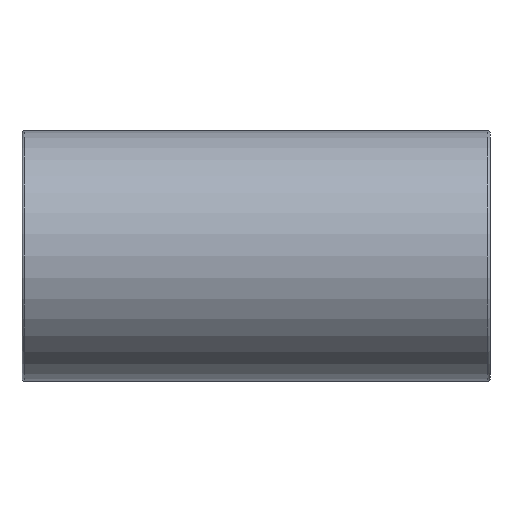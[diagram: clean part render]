
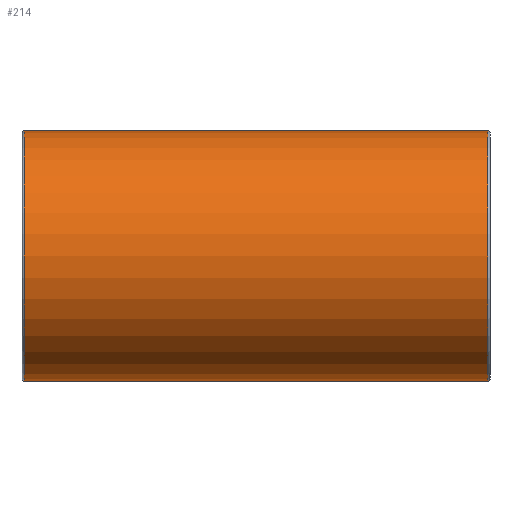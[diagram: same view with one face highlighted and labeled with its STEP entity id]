
A CAD part, front view. The second image highlights one B-rep face of the part: STEP entity #214.
In plain terms, the highlighted cylindrical face has radius 38.5 mm (diameter 77 mm), a full revolution.
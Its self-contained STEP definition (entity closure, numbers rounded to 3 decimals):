
#27=B_SPLINE_CURVE_WITH_KNOTS('',3,(#355,#356,#357,#358,#359,#360,#361,
#362,#363,#364,#365,#366,#367,#368,#369,#370,#371,#372,#373,#374,#375,#376,
#377,#378,#379,#380,#381,#382,#383,#384,#385,#386,#387,#388,#389,#390,#391,
#392,#393,#394,#395,#396,#397,#398,#399,#400,#401,#402,#403,#404,#405,#406,
#407,#408,#409,#410,#411,#412,#413,#414,#415,#416,#417,#418,#419,#420),
 .UNSPECIFIED.,.T.,.F.,(4,2,2,2,2,2,2,2,2,2,2,2,2,2,2,2,2,2,2,2,2,2,2,2,
2,2,2,2,2,2,2,2,4),(0.,0.396,0.792,1.188,
1.584,1.978,2.373,2.767,3.162,
3.557,3.951,4.346,4.74,5.136,
5.532,5.928,6.324,6.72,7.116,
7.512,7.908,8.302,8.697,9.091,
9.486,9.88,10.275,10.67,11.064,
11.46,11.856,12.252,12.648),
 .UNSPECIFIED.);
#29=FACE_BOUND('',#70,.T.);
#30=FACE_BOUND('',#71,.T.);
#50=FACE_OUTER_BOUND('',#69,.T.);
#69=EDGE_LOOP('',(#167));
#70=EDGE_LOOP('',(#168));
#71=EDGE_LOOP('',(#169));
#109=CIRCLE('',#236,38.5);
#110=CIRCLE('',#237,38.5);
#127=VERTEX_POINT('',#350);
#128=VERTEX_POINT('',#352);
#129=VERTEX_POINT('',#354);
#147=EDGE_CURVE('',#127,#127,#109,.T.);
#148=EDGE_CURVE('',#128,#128,#110,.T.);
#149=EDGE_CURVE('',#129,#129,#27,.T.);
#167=ORIENTED_EDGE('',*,*,#147,.F.);
#168=ORIENTED_EDGE('',*,*,#148,.F.);
#169=ORIENTED_EDGE('',*,*,#149,.F.);
#207=CYLINDRICAL_SURFACE('',#235,38.5);
#214=ADVANCED_FACE('',(#50,#29,#30),#207,.T.);
#235=AXIS2_PLACEMENT_3D('',#349,#274,#275);
#236=AXIS2_PLACEMENT_3D('',#351,#276,#277);
#237=AXIS2_PLACEMENT_3D('',#353,#278,#279);
#274=DIRECTION('center_axis',(1.,0.,0.));
#275=DIRECTION('ref_axis',(0.,1.,0.));
#276=DIRECTION('center_axis',(-1.,0.,0.));
#277=DIRECTION('ref_axis',(0.,-1.,0.));
#278=DIRECTION('center_axis',(1.,0.,0.));
#279=DIRECTION('ref_axis',(0.,-1.,0.));
#349=CARTESIAN_POINT('Origin',(0.,0.,
0.));
#350=CARTESIAN_POINT('',(-71.37,38.5,0.));
#351=CARTESIAN_POINT('Origin',(-71.37,0.,0.));
#352=CARTESIAN_POINT('',(71.37,38.5,0.));
#353=CARTESIAN_POINT('Origin',(71.37,0.,0.));
#354=CARTESIAN_POINT('',(0.,32.588,20.5));
#355=CARTESIAN_POINT('Ctrl Pts',(0.,32.588,20.5));
#356=CARTESIAN_POINT('Ctrl Pts',(1.32,32.588,20.5));
#357=CARTESIAN_POINT('Ctrl Pts',(2.673,32.671,20.371));
#358=CARTESIAN_POINT('Ctrl Pts',(5.345,32.997,19.838));
#359=CARTESIAN_POINT('Ctrl Pts',(6.663,33.24,19.435));
#360=CARTESIAN_POINT('Ctrl Pts',(9.177,33.834,18.382));
#361=CARTESIAN_POINT('Ctrl Pts',(10.375,34.184,17.731));
#362=CARTESIAN_POINT('Ctrl Pts',(12.586,34.919,16.237));
#363=CARTESIAN_POINT('Ctrl Pts',(13.599,35.302,15.393));
#364=CARTESIAN_POINT('Ctrl Pts',(15.389,36.03,13.602));
#365=CARTESIAN_POINT('Ctrl Pts',(16.233,36.401,12.591));
#366=CARTESIAN_POINT('Ctrl Pts',(17.729,37.093,10.379));
#367=CARTESIAN_POINT('Ctrl Pts',(18.381,37.412,9.179));
#368=CARTESIAN_POINT('Ctrl Pts',(19.436,37.941,6.66));
#369=CARTESIAN_POINT('Ctrl Pts',(19.839,38.152,5.339));
#370=CARTESIAN_POINT('Ctrl Pts',(20.371,38.431,2.667));
#371=CARTESIAN_POINT('Ctrl Pts',(20.5,38.5,1.315));
#372=CARTESIAN_POINT('Ctrl Pts',(20.5,38.5,-1.315));
#373=CARTESIAN_POINT('Ctrl Pts',(20.371,38.431,-2.667));
#374=CARTESIAN_POINT('Ctrl Pts',(19.839,38.152,-5.339));
#375=CARTESIAN_POINT('Ctrl Pts',(19.436,37.941,-6.66));
#376=CARTESIAN_POINT('Ctrl Pts',(18.381,37.412,-9.179));
#377=CARTESIAN_POINT('Ctrl Pts',(17.729,37.093,-10.379));
#378=CARTESIAN_POINT('Ctrl Pts',(16.233,36.401,-12.591));
#379=CARTESIAN_POINT('Ctrl Pts',(15.389,36.03,-13.602));
#380=CARTESIAN_POINT('Ctrl Pts',(13.599,35.302,-15.393));
#381=CARTESIAN_POINT('Ctrl Pts',(12.586,34.919,-16.237));
#382=CARTESIAN_POINT('Ctrl Pts',(10.375,34.184,-17.731));
#383=CARTESIAN_POINT('Ctrl Pts',(9.177,33.834,-18.382));
#384=CARTESIAN_POINT('Ctrl Pts',(6.663,33.24,-19.435));
#385=CARTESIAN_POINT('Ctrl Pts',(5.345,32.997,-19.838));
#386=CARTESIAN_POINT('Ctrl Pts',(2.673,32.671,-20.371));
#387=CARTESIAN_POINT('Ctrl Pts',(1.32,32.588,-20.5));
#388=CARTESIAN_POINT('Ctrl Pts',(-1.32,32.588,-20.5));
#389=CARTESIAN_POINT('Ctrl Pts',(-2.673,32.671,-20.371));
#390=CARTESIAN_POINT('Ctrl Pts',(-5.345,32.997,-19.838));
#391=CARTESIAN_POINT('Ctrl Pts',(-6.663,33.24,-19.435));
#392=CARTESIAN_POINT('Ctrl Pts',(-9.177,33.834,-18.382));
#393=CARTESIAN_POINT('Ctrl Pts',(-10.375,34.184,-17.731));
#394=CARTESIAN_POINT('Ctrl Pts',(-12.586,34.919,-16.237));
#395=CARTESIAN_POINT('Ctrl Pts',(-13.599,35.302,-15.393));
#396=CARTESIAN_POINT('Ctrl Pts',(-15.389,36.03,-13.602));
#397=CARTESIAN_POINT('Ctrl Pts',(-16.233,36.401,-12.591));
#398=CARTESIAN_POINT('Ctrl Pts',(-17.729,37.093,-10.379));
#399=CARTESIAN_POINT('Ctrl Pts',(-18.381,37.412,-9.179));
#400=CARTESIAN_POINT('Ctrl Pts',(-19.436,37.941,-6.66));
#401=CARTESIAN_POINT('Ctrl Pts',(-19.839,38.152,-5.339));
#402=CARTESIAN_POINT('Ctrl Pts',(-20.371,38.431,-2.667));
#403=CARTESIAN_POINT('Ctrl Pts',(-20.5,38.5,-1.315));
#404=CARTESIAN_POINT('Ctrl Pts',(-20.5,38.5,1.315));
#405=CARTESIAN_POINT('Ctrl Pts',(-20.371,38.431,2.667));
#406=CARTESIAN_POINT('Ctrl Pts',(-19.839,38.152,5.339));
#407=CARTESIAN_POINT('Ctrl Pts',(-19.436,37.941,6.66));
#408=CARTESIAN_POINT('Ctrl Pts',(-18.381,37.412,9.179));
#409=CARTESIAN_POINT('Ctrl Pts',(-17.729,37.093,10.379));
#410=CARTESIAN_POINT('Ctrl Pts',(-16.233,36.401,12.591));
#411=CARTESIAN_POINT('Ctrl Pts',(-15.389,36.03,13.602));
#412=CARTESIAN_POINT('Ctrl Pts',(-13.599,35.302,15.393));
#413=CARTESIAN_POINT('Ctrl Pts',(-12.586,34.919,16.237));
#414=CARTESIAN_POINT('Ctrl Pts',(-10.375,34.184,17.731));
#415=CARTESIAN_POINT('Ctrl Pts',(-9.177,33.834,18.382));
#416=CARTESIAN_POINT('Ctrl Pts',(-6.663,33.24,19.435));
#417=CARTESIAN_POINT('Ctrl Pts',(-5.345,32.997,19.838));
#418=CARTESIAN_POINT('Ctrl Pts',(-2.673,32.671,20.371));
#419=CARTESIAN_POINT('Ctrl Pts',(-1.32,32.588,20.5));
#420=CARTESIAN_POINT('Ctrl Pts',(0.,32.588,
20.5));
